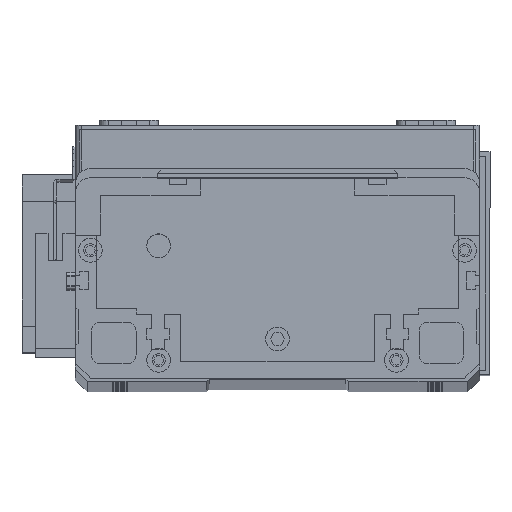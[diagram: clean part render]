
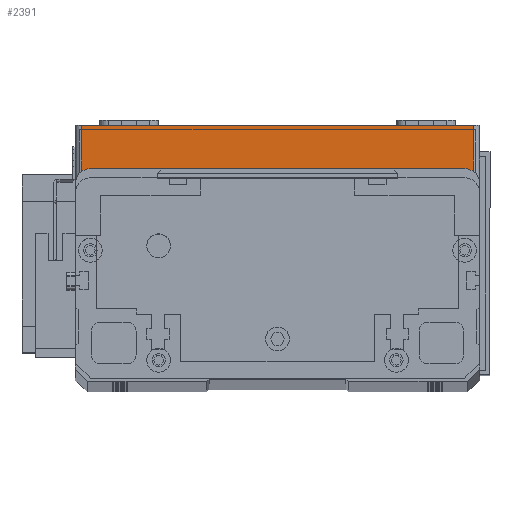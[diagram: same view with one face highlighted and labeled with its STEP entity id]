
A CAD part, top view. The second image highlights one B-rep face of the part: STEP entity #2391.
In plain terms, the highlighted planar face has unit normal (0, 0, 1) as drawn and (0, -1, 0) by its records, which use the part's own axes.
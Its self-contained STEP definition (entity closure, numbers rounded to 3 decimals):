
#419 = DIRECTION ( 'NONE',  ( 0., 0., -1. ) ) ;
#1450 = ORIENTED_EDGE ( 'NONE', *, *, #5659, .T. ) ;
#2266 = EDGE_CURVE ( 'NONE', #4292, #19699, #29345, .T. ) ;
#2391 = ADVANCED_FACE ( 'NONE', ( #28961 ), #25167, .F. ) ;
#2662 = AXIS2_PLACEMENT_3D ( 'NONE', #8891, #25164, #11237 ) ;
#4292 = VERTEX_POINT ( 'NONE', #11408 ) ;
#5538 = VERTEX_POINT ( 'NONE', #6667 ) ;
#5659 = EDGE_CURVE ( 'NONE', #5538, #13076, #17968, .T. ) ;
#6281 = VECTOR ( 'NONE', #21127, 1000. ) ;
#6667 = CARTESIAN_POINT ( 'NONE',  ( 2., 0., 0. ) ) ;
#6885 = CARTESIAN_POINT ( 'NONE',  ( 134., 0., 19.5 ) ) ;
#7162 = CARTESIAN_POINT ( 'NONE',  ( 0., 0., 0. ) ) ;
#7652 = ORIENTED_EDGE ( 'NONE', *, *, #24957, .T. ) ;
#7758 = ORIENTED_EDGE ( 'NONE', *, *, #2266, .F. ) ;
#8891 = CARTESIAN_POINT ( 'NONE',  ( 0., 0., 19.5 ) ) ;
#11237 = DIRECTION ( 'NONE',  ( 0., 0., 1. ) ) ;
#11408 = CARTESIAN_POINT ( 'NONE',  ( 2., 0., 19.5 ) ) ;
#11736 = VECTOR ( 'NONE', #22053, 1000. ) ;
#12816 = EDGE_LOOP ( 'NONE', ( #7758, #14249, #1450, #7652 ) ) ;
#13076 = VERTEX_POINT ( 'NONE', #20983 ) ;
#13310 = DIRECTION ( 'NONE',  ( 1., 0., 0. ) ) ;
#14249 = ORIENTED_EDGE ( 'NONE', *, *, #26863, .T. ) ;
#14640 = VECTOR ( 'NONE', #419, 1000. ) ;
#17968 = LINE ( 'NONE', #7162, #6281 ) ;
#19699 = VERTEX_POINT ( 'NONE', #6885 ) ;
#19712 = CARTESIAN_POINT ( 'NONE',  ( 134., 0., 19.5 ) ) ;
#20225 = CARTESIAN_POINT ( 'NONE',  ( 0., 0., 19.5 ) ) ;
#20803 = LINE ( 'NONE', #21338, #14640 ) ;
#20962 = VECTOR ( 'NONE', #13310, 1000. ) ;
#20983 = CARTESIAN_POINT ( 'NONE',  ( 134., 0., 0. ) ) ;
#21127 = DIRECTION ( 'NONE',  ( 1., 0., 0. ) ) ;
#21338 = CARTESIAN_POINT ( 'NONE',  ( 2., 0., 19.5 ) ) ;
#22053 = DIRECTION ( 'NONE',  ( 0., 0., 1. ) ) ;
#24095 = LINE ( 'NONE', #19712, #11736 ) ;
#24957 = EDGE_CURVE ( 'NONE', #13076, #19699, #24095, .T. ) ;
#25164 = DIRECTION ( 'NONE',  ( 0., 1., 0. ) ) ;
#25167 = PLANE ( 'NONE',  #2662 ) ;
#26863 = EDGE_CURVE ( 'NONE', #4292, #5538, #20803, .T. ) ;
#28961 = FACE_OUTER_BOUND ( 'NONE', #12816, .T. ) ;
#29345 = LINE ( 'NONE', #20225, #20962 ) ;
